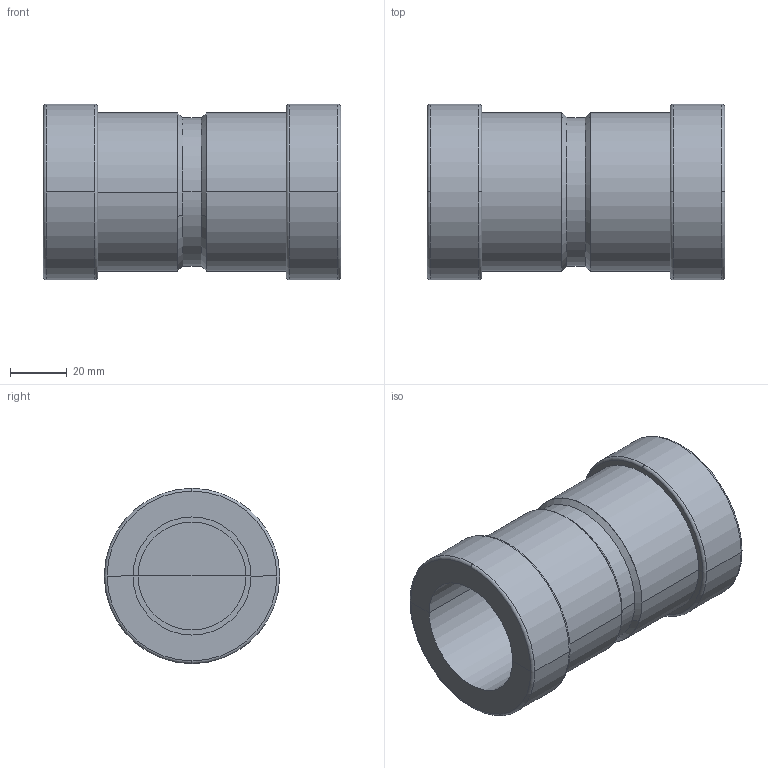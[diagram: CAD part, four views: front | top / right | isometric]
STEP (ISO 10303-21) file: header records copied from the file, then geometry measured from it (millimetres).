
FILE_DESCRIPTION (( 'STEP AP203' ), '1' );
FILE_NAME ('Viega_MegaPress FKM_Coupling, Transition 5915ZL - 1-1_2in.STEP', '2025-02-21T22:22:01', ( '' ), ( '' ), 'SwSTEP 2.0', 'SolidWorks 2020', '' );
FILE_SCHEMA (( 'CONFIG_CONTROL_DESIGN' ));
Length unit declared in the file: millimetre
Products named in the file (1): Viega_MegaPress FKM_Coupling, Transition 5915ZL - 1-1_2in
Bounding box: 105 x 61.9 x 61.9 mm (x, y, z)
Volume: 158047.1 mm3; surface area: 48667.1 mm2
Topology: 5 solids, 5 shells, 50 faces, 116 edges, 72 vertices
Faces by surface type: plane 20, cylinder 18, torus 8, cone 4
Entity records: 1529 total; most frequent: DIRECTION 298, CARTESIAN_POINT 239, ORIENTED_EDGE 232, AXIS2_PLACEMENT_3D 131, EDGE_CURVE 116, CIRCLE 80, VERTEX_POINT 72, FACE_OUTER_BOUND 50
